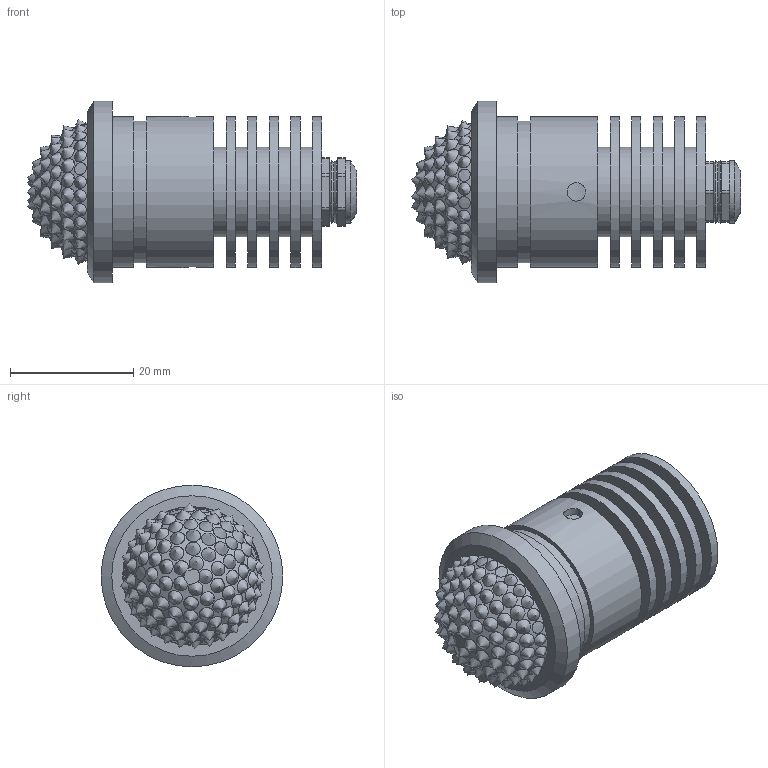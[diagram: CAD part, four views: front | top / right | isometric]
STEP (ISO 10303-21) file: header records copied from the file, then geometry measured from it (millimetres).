
FILE_DESCRIPTION(/* description */ (''),/* implementation_level */ '2;1');
FILE_NAME(/* name */ 'C:/Users/elena/OneDrive/Allegati di posta elettronica/Desktop/Pinolo ghianda.step',/* time_stamp */ '2020-06-09T13:24:15+02:00',/* author */ (''),/* organization */ (''),/* preprocessor_version */ 'ST-DEVELOPER v18.1',/* originating_system */ 'Autodesk Translation Framework v9.3.0.1241',/* authorisation */ '');
FILE_SCHEMA (('AUTOMOTIVE_DESIGN { 1 0 10303 214 3 1 1 }'));
Length unit declared in the file: millimetre
Products named in the file (1): (Unsaved)
Bounding box: 53.38 x 29.5 x 29.5 mm (x, y, z)
Volume: 13553.1 mm3; surface area: 9798.3 mm2
Topology: 3 solids, 4 shells, 255 faces, 749 edges, 510 vertices
Faces by surface type: cone 118, plane 99, cylinder 36, bspline 2
Full cylindrical faces by diameter (mm): 3 x2, 5 x1, 10.127 x1, 14.5 x5, 21 x1, 22 x1, 22.5 x1, 23 x1, 23.4 x1, 24.5 x7, 29.5 x1
Entity records: 12348 total; most frequent: CARTESIAN_POINT 6354, ORIENTED_EDGE 1282, DIRECTION 1003, EDGE_CURVE 641, VERTEX_POINT 510, AXIS2_PLACEMENT_3D 402, EDGE_LOOP 375, B_SPLINE_CURVE_WITH_KNOTS 293
